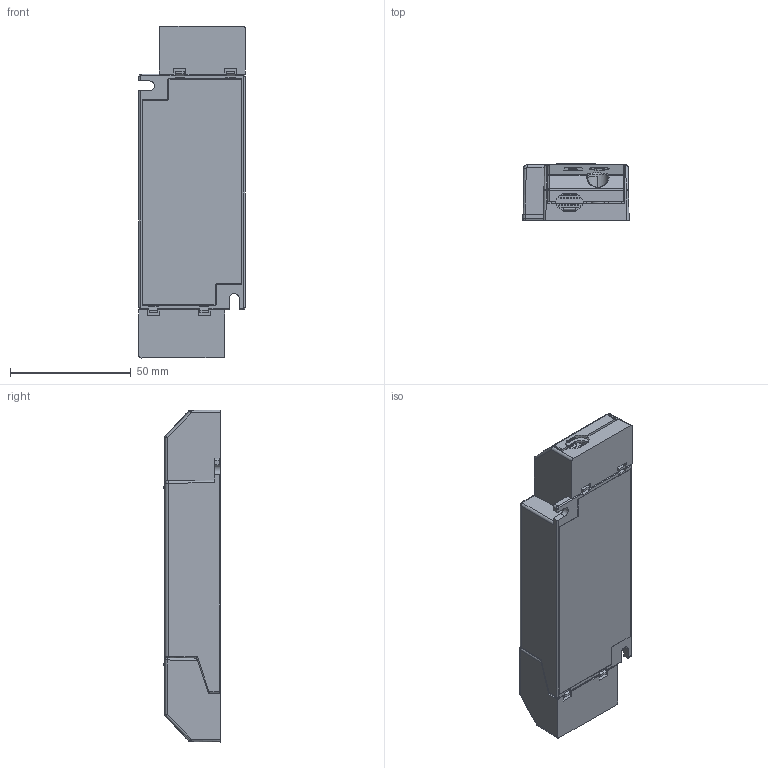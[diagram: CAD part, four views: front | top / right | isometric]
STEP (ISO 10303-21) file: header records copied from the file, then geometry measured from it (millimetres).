
FILE_DESCRIPTION((''),'2;1');
FILE_NAME('00-CC30-44_ASM','2022-11-05T',('admin'),(''),'PRO/ENGINEER BY PARAMETRIC TECHNOLOGY CORPORATION, 2015240','PRO/ENGINEER BY PARAMETRIC TECHNOLOGY CORPORATION, 2015240','');
FILE_SCHEMA(('CONFIG_CONTROL_DESIGN','SHAPE_APPEARANCE_LAYERS_GROUPS'));
Length unit declared in the file: millimetre
Products named in the file (8): 23-TWO-TOP_15_18; 23PCB_1_1; 23-TWO-BOTTOM_2_6; 23-TWO-TOP-1_8_22; 23-TWO-TOP-2_15_19; YAXIANBAN_3; XDG_ASM_5_ASM_7_ASM; 00-CC30-44_ASM
Assembly tree (9 placements, depth 3):
  00-CC30-44_ASM
    23-TWO-TOP_15_18
    23PCB_1_1
    23-TWO-BOTTOM_2_6
    XDG_ASM_5_ASM_7_ASM  x2
      23-TWO-TOP-1_8_22
      23-TWO-TOP-2_15_19
      YAXIANBAN_3
Bounding box: 44 x 23.61 x 137.5 mm (x, y, z)
Volume: 48338.6 mm3; surface area: 63584.9 mm2
Topology: 11 solids, 11 shells, 1775 faces, 4878 edges, 3071 vertices
Faces by surface type: plane 1225, cylinder 352, sphere 152, bspline 28, torus 10, cone 4, extrusion 4
Entity records: 30788 total; most frequent: CARTESIAN_POINT 6261, ORIENTED_EDGE 5142, DIRECTION 4879, EDGE_CURVE 2571, VECTOR 2011, LINE 2009, VERTEX_POINT 1672, AXIS2_PLACEMENT_3D 1434
